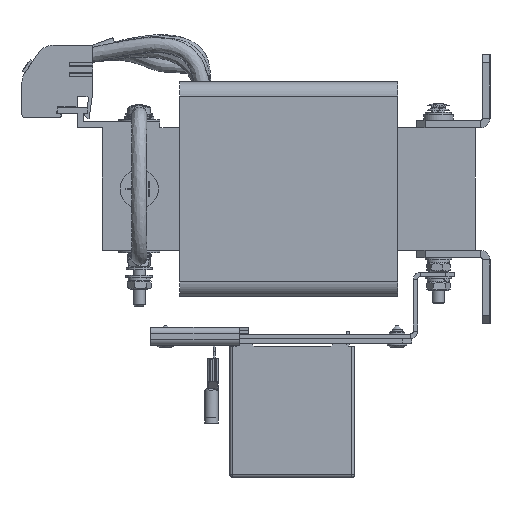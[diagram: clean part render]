
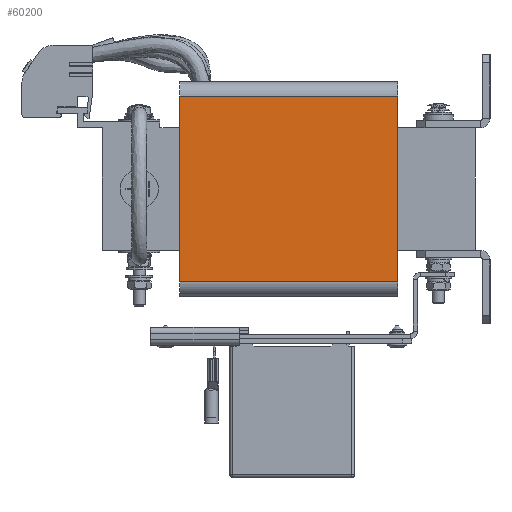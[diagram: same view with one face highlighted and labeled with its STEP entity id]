
A CAD part, left-side view. The second image highlights one B-rep face of the part: STEP entity #60200.
In plain terms, the highlighted planar face has unit normal (-1, 0, 0).
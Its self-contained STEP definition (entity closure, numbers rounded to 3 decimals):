
#2542=PLANE('',#65023);
#5489=FACE_OUTER_BOUND('',#8935,.T.);
#8935=EDGE_LOOP('',(#49971,#49972,#49973,#49974));
#13524=LINE('',#88552,#19324);
#16574=LINE('',#102275,#22374);
#16578=LINE('',#102282,#22378);
#16579=LINE('',#102284,#22379);
#19324=VECTOR('',#69577,10.);
#22374=VECTOR('',#78209,10.);
#22378=VECTOR('',#78219,10.);
#22379=VECTOR('',#78222,10.);
#25211=VERTEX_POINT('',#88549);
#25212=VERTEX_POINT('',#88551);
#28106=VERTEX_POINT('',#102272);
#28107=VERTEX_POINT('',#102274);
#31265=EDGE_CURVE('',#25211,#25212,#13524,.T.);
#35747=EDGE_CURVE('',#28106,#28107,#16574,.T.);
#35752=EDGE_CURVE('',#25212,#28106,#16578,.T.);
#35753=EDGE_CURVE('',#25211,#28107,#16579,.T.);
#49971=ORIENTED_EDGE('',*,*,#35752,.F.);
#49972=ORIENTED_EDGE('',*,*,#31265,.F.);
#49973=ORIENTED_EDGE('',*,*,#35753,.T.);
#49974=ORIENTED_EDGE('',*,*,#35747,.F.);
#60200=ADVANCED_FACE('',(#5489),#2542,.T.);
#65023=AXIS2_PLACEMENT_3D('',#102283,#78220,#78221);
#69577=DIRECTION('',(0.,0.,1.));
#78209=DIRECTION('',(0.,0.,-1.));
#78219=DIRECTION('',(0.,-1.,0.));
#78220=DIRECTION('center_axis',(-1.,0.,0.));
#78221=DIRECTION('ref_axis',(0.,0.,1.));
#78222=DIRECTION('',(0.,-1.,0.));
#88549=CARTESIAN_POINT('',(-74.5,37.,-31.5));
#88551=CARTESIAN_POINT('',(-74.5,37.,31.5));
#88552=CARTESIAN_POINT('',(-74.5,37.,31.5));
#102272=CARTESIAN_POINT('',(-74.5,-37.,31.5));
#102274=CARTESIAN_POINT('',(-74.5,-37.,-31.5));
#102275=CARTESIAN_POINT('',(-74.5,-37.,31.5));
#102282=CARTESIAN_POINT('',(-74.5,0.,31.5));
#102283=CARTESIAN_POINT('Origin',(-74.5,0.,-31.5));
#102284=CARTESIAN_POINT('',(-74.5,0.,-31.5));
